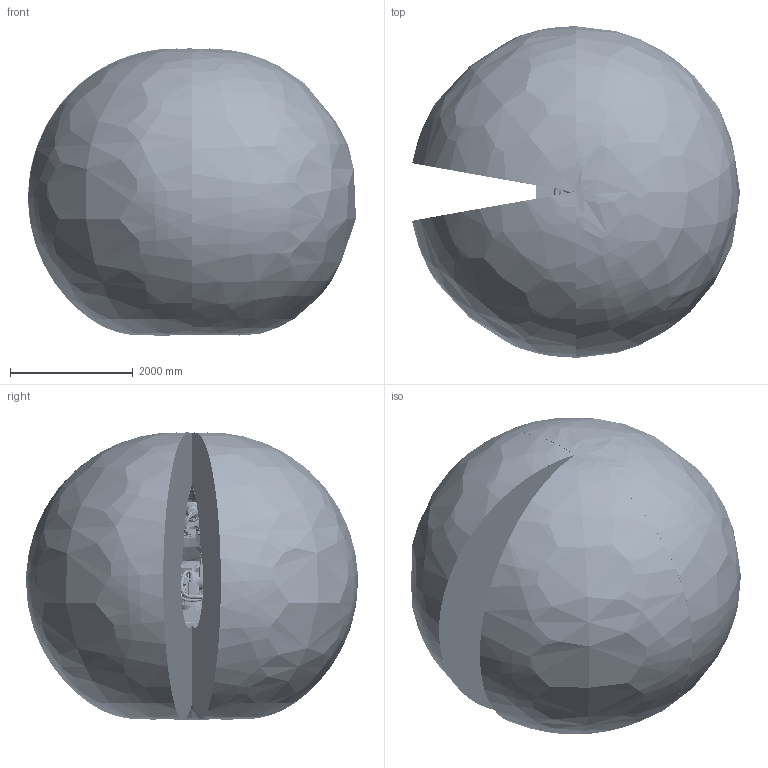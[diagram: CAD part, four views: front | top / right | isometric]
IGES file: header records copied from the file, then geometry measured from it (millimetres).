
Start section: SolidWorks IGES file using analytic representation for surfaces
Global section: file name: C:\Users\SEALDUN\OneDrive - ABB\Documents\R&D Robotics\Work Items\WI 632927\IGES\IRB5710-LID-SW_70kg-270_OC_02_IGES_J\IRB5710-LID-SW_70kg-270_OC_02_ASM.igs; native system: SolidWorks 2024; preprocessor: SolidWorks 2024; author: SEALDUN; date: 250707.155143; units: millimetre
Bounding box: 5335.75 x 5401.97 x 4670.11 mm (x, y, z)
Surface area: 124233259.8 mm2 (no closed solid volume)
Topology: 0 solids, 0 shells, 9006 faces, 134825 edges, 134524 vertices
Faces by surface type: bspline 5324, revolution 3682
